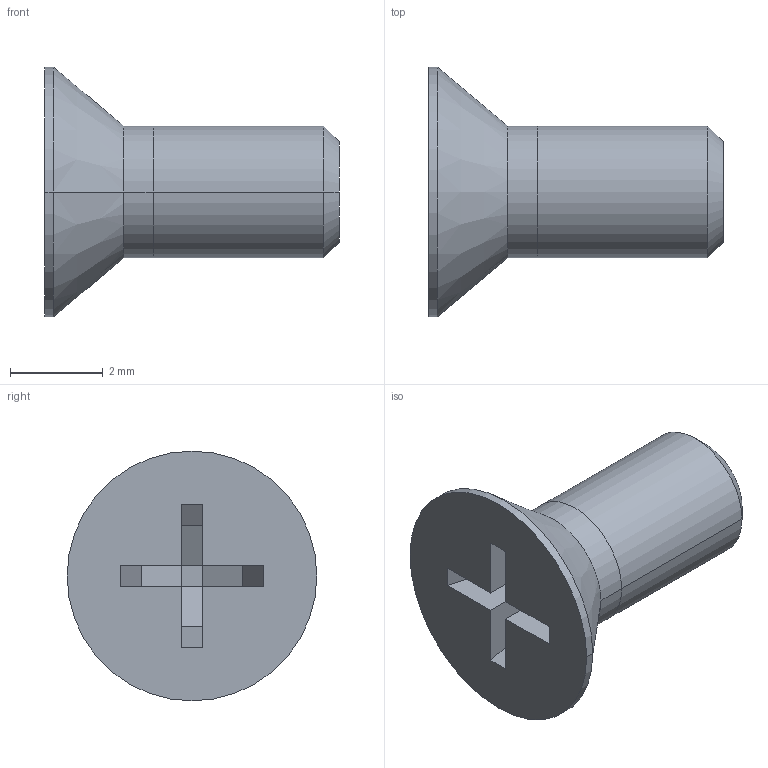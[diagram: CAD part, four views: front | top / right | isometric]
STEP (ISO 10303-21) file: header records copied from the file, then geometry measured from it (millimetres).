
FILE_DESCRIPTION(/* description */ ('VariCAD 2010-1.04 AP-203'),/* implementation_level */ '2;1');
FILE_NAME(/* name */ '0353-97-03',/* time_stamp */ '2010-01-26T22:03:08-07:00',/* author */ (''),/* organization */ (''),/* preprocessor_version */ 'ST-DEVELOPER v12',/* originating_system */ 'VariCAD 2010-1.04; kernel version (20090520)',/* authorisation */ '');
FILE_SCHEMA (('CONFIG_CONTROL_DESIGN'));
Length unit declared in the file: millimetre
Products named in the file (1): Part
Bounding box: 6.35 x 5.38 x 5.38 mm (x, y, z)
Volume: 50.1 mm3; surface area: 175.5 mm2
Topology: 2 solids, 2 shells, 35 faces, 74 edges, 44 vertices
Faces by surface type: plane 21, cylinder 10, cone 4
Entity records: 974 total; most frequent: DIRECTION 170, CARTESIAN_POINT 156, ORIENTED_EDGE 148, EDGE_CURVE 74, AXIS2_PLACEMENT_3D 58, LINE 54, VECTOR 54, VERTEX_POINT 44
